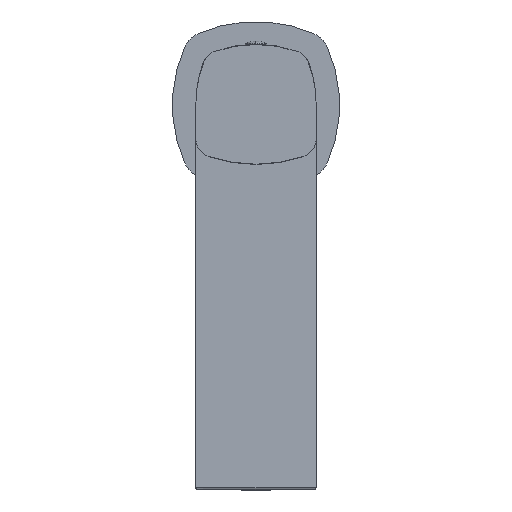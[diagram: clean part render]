
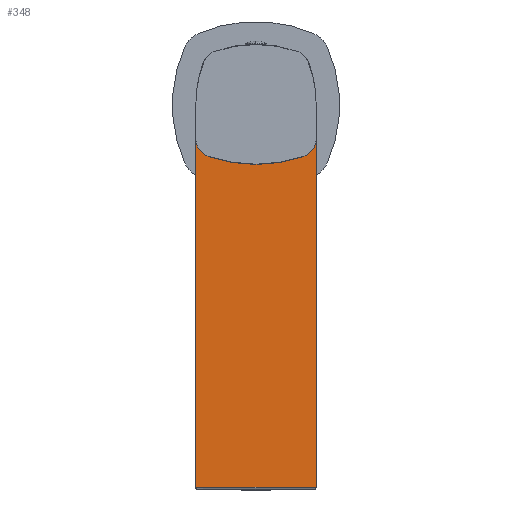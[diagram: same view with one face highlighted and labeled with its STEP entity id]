
A CAD part, top view. The second image highlights one B-rep face of the part: STEP entity #348.
In plain terms, the highlighted planar face has unit normal (0, 0, 1).
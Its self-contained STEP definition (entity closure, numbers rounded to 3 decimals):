
#272 = EDGE_CURVE('',#273,#275,#277,.T.);
#273 = VERTEX_POINT('',#274);
#274 = CARTESIAN_POINT('',(-18.,-114.585,
    98.814));
#275 = VERTEX_POINT('',#276);
#276 = CARTESIAN_POINT('',(-18.,0.,
    98.814));
#277 = LINE('',#278,#279);
#278 = CARTESIAN_POINT('',(-18.,-114.585,
    98.814));
#279 = VECTOR('',#280,1.);
#280 = DIRECTION('',(0.,1.,0.));
#323 = VERTEX_POINT('',#324);
#324 = CARTESIAN_POINT('',(18.,0.,
    98.814));
#330 = EDGE_CURVE('',#323,#331,#333,.T.);
#331 = VERTEX_POINT('',#332);
#332 = CARTESIAN_POINT('',(18.,-114.585,
    98.814));
#333 = LINE('',#334,#335);
#334 = CARTESIAN_POINT('',(18.,-114.585,
    98.814));
#335 = VECTOR('',#336,1.);
#336 = DIRECTION('',(0.,-1.,0.));
#348 = ADVANCED_FACE('',(#349,#402),#422,.T.);
#349 = FACE_BOUND('',#350,.T.);
#350 = EDGE_LOOP('',(#351,#352,#358,#359,#368,#377,#386,#395));
#351 = ORIENTED_EDGE('',*,*,#272,.F.);
#352 = ORIENTED_EDGE('',*,*,#353,.T.);
#353 = EDGE_CURVE('',#273,#331,#354,.T.);
#354 = LINE('',#355,#356);
#355 = CARTESIAN_POINT('',(-18.,-114.585,
    98.814));
#356 = VECTOR('',#357,1.);
#357 = DIRECTION('',(1.,0.,0.));
#358 = ORIENTED_EDGE('',*,*,#330,.F.);
#359 = ORIENTED_EDGE('',*,*,#360,.T.);
#360 = EDGE_CURVE('',#323,#361,#363,.T.);
#361 = VERTEX_POINT('',#362);
#362 = CARTESIAN_POINT('',(16.043,11.955,
    98.814));
#363 = CIRCLE('',#364,37.5);
#364 = AXIS2_PLACEMENT_3D('',#365,#366,#367);
#365 = CARTESIAN_POINT('',(-19.5,0.,98.814));
#366 = DIRECTION('',(0.,0.,1.));
#367 = DIRECTION('',(0.928,-0.373,0.));
#368 = ORIENTED_EDGE('',*,*,#369,.T.);
#369 = EDGE_CURVE('',#361,#370,#372,.T.);
#370 = VERTEX_POINT('',#371);
#371 = CARTESIAN_POINT('',(11.955,16.043,
    98.814));
#372 = CIRCLE('',#373,6.5);
#373 = AXIS2_PLACEMENT_3D('',#374,#375,#376);
#374 = CARTESIAN_POINT('',(9.883,9.883,98.814
    ));
#375 = DIRECTION('',(0.,0.,1.));
#376 = DIRECTION('',(1.,0.,-0.));
#377 = ORIENTED_EDGE('',*,*,#378,.T.);
#378 = EDGE_CURVE('',#370,#379,#381,.T.);
#379 = VERTEX_POINT('',#380);
#380 = CARTESIAN_POINT('',(-11.955,16.043,
    98.814));
#381 = CIRCLE('',#382,37.5);
#382 = AXIS2_PLACEMENT_3D('',#383,#384,#385);
#383 = CARTESIAN_POINT('',(0.,-19.5,
    98.814));
#384 = DIRECTION('',(0.,0.,1.));
#385 = DIRECTION('',(-0.373,0.928,0.));
#386 = ORIENTED_EDGE('',*,*,#387,.T.);
#387 = EDGE_CURVE('',#379,#388,#390,.T.);
#388 = VERTEX_POINT('',#389);
#389 = CARTESIAN_POINT('',(-16.043,11.955,
    98.814));
#390 = CIRCLE('',#391,6.5);
#391 = AXIS2_PLACEMENT_3D('',#392,#393,#394);
#392 = CARTESIAN_POINT('',(-9.883,9.883,98.814
    ));
#393 = DIRECTION('',(0.,0.,1.));
#394 = DIRECTION('',(1.,0.,-0.));
#395 = ORIENTED_EDGE('',*,*,#396,.T.);
#396 = EDGE_CURVE('',#388,#275,#397,.T.);
#397 = CIRCLE('',#398,37.5);
#398 = AXIS2_PLACEMENT_3D('',#399,#400,#401);
#399 = CARTESIAN_POINT('',(19.5,0.,
    98.814));
#400 = DIRECTION('',(0.,0.,1.));
#401 = DIRECTION('',(-0.928,-0.373,0.));
#402 = FACE_BOUND('',#403,.T.);
#403 = EDGE_LOOP('',(#404,#415));
#404 = ORIENTED_EDGE('',*,*,#405,.T.);
#405 = EDGE_CURVE('',#406,#408,#410,.T.);
#406 = VERTEX_POINT('',#407);
#407 = CARTESIAN_POINT('',(0.,-17.496,
    98.814));
#408 = VERTEX_POINT('',#409);
#409 = CARTESIAN_POINT('',(0.,17.496,
    98.814));
#410 = CIRCLE('',#411,17.496);
#411 = AXIS2_PLACEMENT_3D('',#412,#413,#414);
#412 = CARTESIAN_POINT('',(0.,0.,
    98.814));
#413 = DIRECTION('',(0.,0.,-1.));
#414 = DIRECTION('',(0.,1.,0.));
#415 = ORIENTED_EDGE('',*,*,#416,.T.);
#416 = EDGE_CURVE('',#408,#406,#417,.T.);
#417 = CIRCLE('',#418,17.496);
#418 = AXIS2_PLACEMENT_3D('',#419,#420,#421);
#419 = CARTESIAN_POINT('',(0.,0.,
    98.814));
#420 = DIRECTION('',(0.,0.,-1.));
#421 = DIRECTION('',(0.,1.,0.));
#422 = PLANE('',#423);
#423 = AXIS2_PLACEMENT_3D('',#424,#425,#426);
#424 = CARTESIAN_POINT('',(18.,-115.385,
    98.814));
#425 = DIRECTION('',(0.,0.,1.));
#426 = DIRECTION('',(0.,1.,0.));
